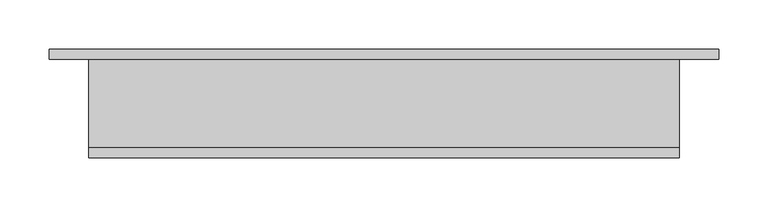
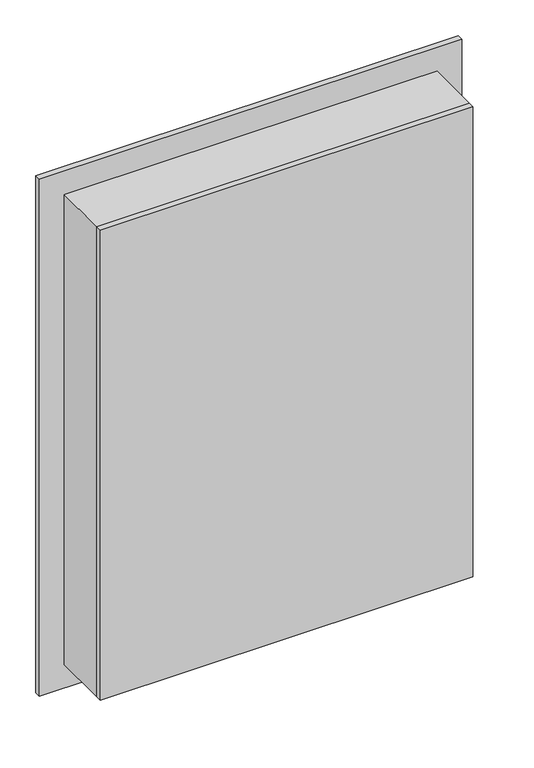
"""IFC4 building model written with IfcOpenShell, lengths in millimetres: proxy geometry, Nicho Banheiro : Nicho 0,60 x 0,80."""

import ifcopenshell
import ifcopenshell.guid

model = None  # the IFC model being written
_history = None  # IfcOwnerHistory: only IFC2X3 demands one
_inside = {}  # id of a spatial element -> (the spatial element, [elements in it])
_under = {}  # id of a project, library or spatial element -> (it, [spatial elements below it])
_declared = {}  # id of a project -> (the project, [libraries it declares])
_typed = {}  # id of a type object -> (the type object, [elements of that type])
_made_of = {}  # id of a material, layer set ... -> (it, [elements and type objects made of it])


def new_model(schema):
    """Start an empty IFC model of exactly this schema.

    Asked for "IFC4X3", IfcOpenShell would pick the latest addendum, in which some entities
    have other attributes; the version numbers below select the first issue.
    IFC2X3 requires an IfcOwnerHistory on every rooted entity: one is made here for all.
    """
    global model, _history
    if schema == "IFC4X3":
        model = ifcopenshell.file(schema_version=(4, 3, 0, 0))
    else:
        model = ifcopenshell.file(schema=schema)
    _inside.clear()
    _under.clear()
    _declared.clear()
    _typed.clear()
    _made_of.clear()
    _history = None
    if model.schema == "IFC2X3":
        org = make("IfcOrganization", Name="unknown")
        user = make(
            "IfcPersonAndOrganization",
            ThePerson=make("IfcPerson", FamilyName="unknown"),
            TheOrganization=org,
        )
        app = make(
            "IfcApplication",
            ApplicationDeveloper=org,
            Version="unknown",
            ApplicationFullName="unknown",
            ApplicationIdentifier="unknown",
        )
        _history = make(
            "IfcOwnerHistory",
            OwningUser=user,
            OwningApplication=app,
            ChangeAction="ADDED",
            CreationDate=0,
        )
    return model


def make(cls, **values):
    """One entity of the class cls with the attributes given. An attribute that is None is left unset."""
    return model.create_entity(
        cls, **{name: value for name, value in values.items() if value is not None}
    )


def rooted(cls, **values):
    """An entity with a GlobalId (a new one), such as an element, a storey or a relation."""
    return make(cls, GlobalId=ifcopenshell.guid.new(), OwnerHistory=_history, **values)


def si_unit(unit_type, name, prefix=None):
    """IfcSIUnit, for example si_unit("LENGTHUNIT", "METRE", prefix="MILLI")."""
    return make("IfcSIUnit", UnitType=unit_type, Prefix=prefix, Name=name)


def assignment(units):
    """IfcUnitAssignment: the units of a project."""
    return None if units is None else make("IfcUnitAssignment", Units=units)


def point(xyz):
    """IfcCartesianPoint."""
    return None if xyz is None else make("IfcCartesianPoint", Coordinates=xyz)


def direction(xyz):
    """IfcDirection."""
    return None if xyz is None else make("IfcDirection", DirectionRatios=xyz)


def frame(location, z_axis=None, x_axis=None):
    """IfcAxis2Placement3D, a coordinate frame: its origin and axes. An axis left out is left unset."""
    return make(
        "IfcAxis2Placement3D",
        Location=point(location),
        Axis=direction(z_axis),
        RefDirection=direction(x_axis),
    )


def origin():
    """The frame at (0, 0, 0) with its axes left unset."""
    return frame((0.0, 0.0, 0.0))


def place(relative_to, where):
    """IfcLocalPlacement: puts the frame where relative to a parent placement (None: the world)."""
    return make(
        "IfcLocalPlacement", PlacementRelTo=relative_to, RelativePlacement=where
    )


def context(
    kind, dimensions, precision=None, world=None, true_north=None, identifier=None
):
    """IfcGeometricRepresentationContext, for example the 3D "Model" context."""
    return make(
        "IfcGeometricRepresentationContext",
        ContextIdentifier=identifier,
        ContextType=kind,
        CoordinateSpaceDimension=dimensions,
        Precision=precision,
        WorldCoordinateSystem=world,
        TrueNorth=true_north,
    )


def project(units=None, contexts=None):
    """IfcProject with its units and contexts."""
    return rooted(
        "IfcProject",
        Name="project",
        RepresentationContexts=contexts,
        UnitsInContext=assignment(units),
    )


def spatial(cls, under=None, at=None, **own):
    """A site, building, storey or space (cls), placed at a placement, below another one or the project."""
    s = rooted(cls, ObjectPlacement=at, **own)
    if under is not None:
        _under.setdefault(under.id(), (under, []))[1].append(s)
    return s


def polyline(points):
    """IfcPolyline through the points."""
    return make("IfcPolyline", Points=[point(p) for p in points])


def outline(outer, holes=None, kind="AREA"):
    """IfcArbitraryClosedProfileDef: a profile drawn as a closed curve; with holes, ...WithVoids."""
    if holes is None:
        return make("IfcArbitraryClosedProfileDef", ProfileType=kind, OuterCurve=outer)
    return make(
        "IfcArbitraryProfileDefWithVoids",
        ProfileType=kind,
        OuterCurve=outer,
        InnerCurves=holes,
    )


def extrude(swept, where, along, depth):
    """IfcExtrudedAreaSolid: the profile swept, set in the frame where, extruded along a direction by depth."""
    return make(
        "IfcExtrudedAreaSolid",
        SweptArea=swept,
        Position=where,
        ExtrudedDirection=direction(along),
        Depth=depth,
    )


def shape(context_of_items, identifier, shape_type, items):
    """IfcShapeRepresentation: the items that make up one representation, for example the "Body"."""
    return make(
        "IfcShapeRepresentation",
        ContextOfItems=context_of_items,
        RepresentationIdentifier=identifier,
        RepresentationType=shape_type,
        Items=items,
    )


def source(mapping_origin, context_of_items, identifier, shape_type, items):
    """IfcRepresentationMap: a shape defined once, which mapped items show again and again."""
    return make(
        "IfcRepresentationMap",
        MappingOrigin=mapping_origin,
        MappedRepresentation=shape(context_of_items, identifier, shape_type, items),
    )


def transform(
    local_origin,
    x_axis=None,
    y_axis=None,
    z_axis=None,
    scale=None,
    scale2=None,
    scale3=None,
    uniform=True,
):
    """IfcCartesianTransformationOperator3D, or its non-uniform kind. x_axis, y_axis, z_axis: its Axis1, 2, 3."""
    if uniform:
        return make(
            "IfcCartesianTransformationOperator3D",
            Axis1=direction(x_axis),
            Axis2=direction(y_axis),
            LocalOrigin=point(local_origin),
            Scale=scale,
            Axis3=direction(z_axis),
        )
    return make(
        "IfcCartesianTransformationOperator3DnonUniform",
        Axis1=direction(x_axis),
        Axis2=direction(y_axis),
        LocalOrigin=point(local_origin),
        Scale=scale,
        Axis3=direction(z_axis),
        Scale2=scale2,
        Scale3=scale3,
    )


def mapped(mapping_source, mapping_target):
    """IfcMappedItem: shows the shape of a source again, moved by a transform."""
    return make(
        "IfcMappedItem", MappingSource=mapping_source, MappingTarget=mapping_target
    )


def made_of(thing, what):
    """Note that an element or type object is made of a material, layer set ...; save() writes the relation."""
    if what is not None:
        _made_of.setdefault(what.id(), (what, []))[1].append(thing)
    return thing


def element(
    cls,
    number,
    at=None,
    inside=None,
    cuts=None,
    type_object=None,
    material=None,
    context=None,
    identifier="Body",
    shape_type=None,
    held_by="IfcProductDefinitionShape",
    body=None,
    shapes=None,
    **own,
):
    """One element of the class cls, such as IfcWall. Its Tag is "e" and its number.

    at: its placement. inside: the storey or other place that contains it. cuts: it is an
    opening in that element (IfcRelVoidsElement). A single representation is given by context,
    identifier, shape_type and body (its items); several are given by shapes. held_by: the class
    of the entity that holds the representations. save() writes the other relations.
    """
    e = rooted(cls, Tag="e%d" % number, ObjectPlacement=at, **own)
    if body is not None:
        shapes = [shape(context, identifier, shape_type, body)]
    if shapes is not None:
        e.Representation = make(held_by, Representations=shapes)
    if inside is not None:
        _inside.setdefault(inside.id(), (inside, []))[1].append(e)
    if cuts is not None:
        rooted(
            "IfcRelVoidsElement", RelatingBuildingElement=cuts, RelatedOpeningElement=e
        )
    if type_object is not None:
        _typed.setdefault(type_object.id(), (type_object, []))[1].append(e)
    return made_of(e, material)


def aggregate(whole, parts):
    """IfcRelAggregates: a whole, such as a stair, and the parts it consists of."""
    return rooted("IfcRelAggregates", RelatingObject=whole, RelatedObjects=parts)


def save(model, path):
    """Write the relations noted so far, then the file.

    IfcRelAggregates (storeys below a building ...), IfcRelContainedInSpatialStructure (elements
    in a storey), IfcRelDefinesByType, IfcRelAssociatesMaterial and IfcRelDeclares: one each for
    every whole, place, type object, material and project.
    """
    for whole, parts in _under.values():
        aggregate(whole, parts)
    for where, things in _inside.values():
        rooted(
            "IfcRelContainedInSpatialStructure",
            RelatedElements=things,
            RelatingStructure=where,
        )
    for kind, things in _typed.values():
        rooted("IfcRelDefinesByType", RelatedObjects=things, RelatingType=kind)
    for what, things in _made_of.values():
        rooted("IfcRelAssociatesMaterial", RelatedObjects=things, RelatingMaterial=what)
    for by, libraries in _declared.values():
        rooted("IfcRelDeclares", RelatingContext=by, RelatedDefinitions=libraries)
    model.write(path)


def generic_models_0adf56fe(model_context):
    return source(origin(), model_context, "Body", "SweptSolid", [
        extrude(outline(polyline([(425.0, -25.0), (-175.0, -25.0), (-175.0, -15.0), (425.0, -15.0), (425.0, -25.0)])), frame((0.0, 0.0, 1416.9003653), z_axis=(0.0, 0.0, 1.0), x_axis=(1.0, 0.0, 0.0)), (0.0, 0.0, 1.0), 800.0),
        extrude(outline(polyline([(2216.9003653, -175.0), (1416.9003653, -175.0), (1416.9003653, 425.0), (2216.9003653, 425.0), (2216.9003653, -175.0)]), holes=[polyline([(2206.9003653, -165.0), (2206.9003653, 415.0), (1426.9003653, 415.0), (1426.9003653, -165.0), (2206.9003653, -165.0)])]), frame((0.0, -15.0, 0.0), z_axis=(0.0, 1.0, 0.0), x_axis=(0.0, 0.0, 1.0)), (0.0, 0.0, 1.0), 100.0),
        extrude(outline(polyline([(2256.9003653, -215.0), (1376.9003653, -215.0), (1376.9003653, 465.0), (2256.9003653, 465.0), (2256.9003653, -215.0)]), holes=[polyline([(2216.9003653, -175.0), (2216.9003653, 425.0), (1416.9003653, 425.0), (1416.9003653, -175.0), (2216.9003653, -175.0)])]), frame((0.0, 75.0, 0.0), z_axis=(0.0, 1.0, 0.0), x_axis=(0.0, 0.0, 1.0)), (0.0, 0.0, 1.0), 10.0),
    ])


if __name__ == "__main__":
    model = new_model("IFC4")
    model_context = context("Model", 3, world=origin())
    ifc_project = project(units=[si_unit("LENGTHUNIT", "METRE", prefix="MILLI")], contexts=[model_context])
    site = spatial("IfcSite", under=ifc_project)
    building = spatial("IfcBuilding", under=site)
    placement = place(None, origin())
    generic_models_shape = generic_models_0adf56fe(model_context)
    element("IfcBuildingElementProxy", 1, Name="Nicho Banheiro : Nicho 0,60 x 0,80", ObjectType="Nicho Banheiro : Nicho 0,60 x 0,80", at=placement, inside=building, context=model_context, shape_type="MappedRepresentation", body=[
        mapped(generic_models_shape, transform((0.0, 0.0, 0.0), x_axis=(1.0, 0.0, 0.0), y_axis=(0.0, 1.0, 0.0), z_axis=(0.0, 0.0, 1.0))),
    ])
    save(model, "model.ifc")
